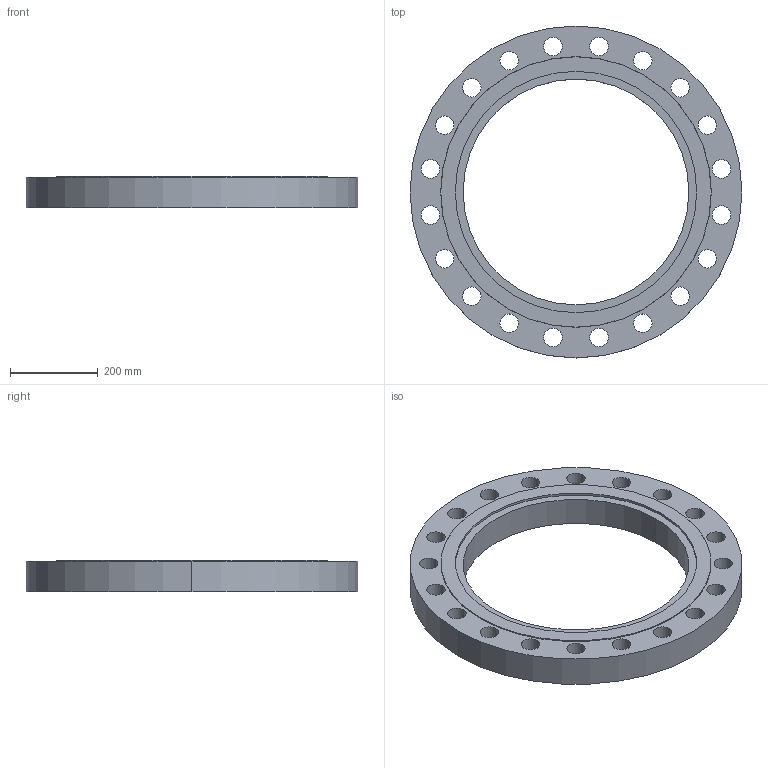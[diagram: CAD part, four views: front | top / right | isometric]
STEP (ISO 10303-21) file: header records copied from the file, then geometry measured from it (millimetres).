
FILE_DESCRIPTION (( 'STEP AP214' ), '1' );
FILE_NAME ('PN40 DN500 Type 01 - Type G Face.STEP', '2018-12-29T01:37:32', ( '' ), ( '' ), 'SwSTEP 2.0', 'SolidWorks 2019', '' );
FILE_SCHEMA (( 'AUTOMOTIVE_DESIGN' ));
Length unit declared in the file: millimetre
Products named in the file (1): PN40 DN500 Type 01 - Type G Face
Bounding box: 755 x 755 x 72 mm (x, y, z)
Volume: 14920124.7 mm3; surface area: 896551.8 mm2
Topology: 1 solids, 1 shells, 52 faces, 144 edges, 96 vertices
Faces by surface type: cylinder 46, plane 4, cone 2
Entity records: 1842 total; most frequent: DIRECTION 346, CARTESIAN_POINT 293, ORIENTED_EDGE 288, AXIS2_PLACEMENT_3D 149, EDGE_CURVE 144, CIRCLE 96, EDGE_LOOP 96, VERTEX_POINT 96
